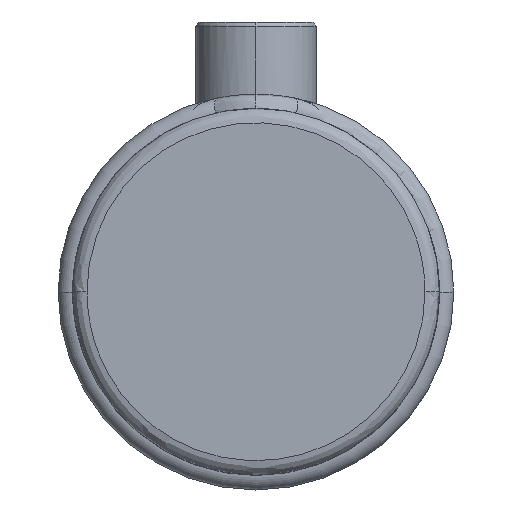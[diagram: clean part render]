
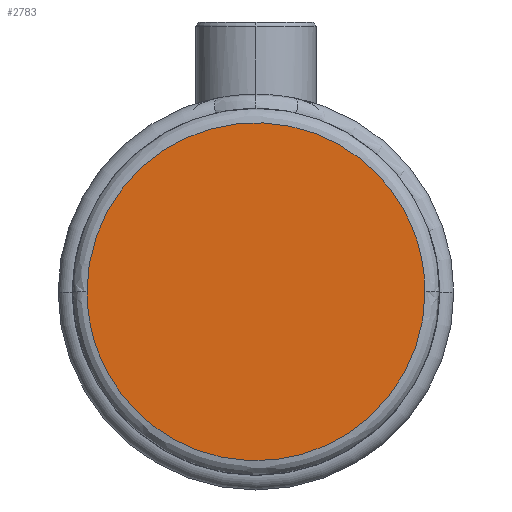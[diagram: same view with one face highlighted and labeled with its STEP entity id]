
A CAD part, top view. The second image highlights one B-rep face of the part: STEP entity #2783.
In plain terms, the highlighted planar face has unit normal (0, 0, 1).
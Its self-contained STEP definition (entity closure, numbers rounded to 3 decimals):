
#232 = FACE_OUTER_BOUND ( 'NONE', #10256, .T. ) ;
#452 = CARTESIAN_POINT ( 'NONE',  ( 35.1, 0., 50. ) ) ;
#556 = EDGE_CURVE ( 'NONE', #3232, #1459, #812, .T. ) ;
#573 = ORIENTED_EDGE ( 'NONE', *, *, #556, .F. ) ;
#812 =( BOUNDED_CURVE ( )  B_SPLINE_CURVE ( 3, ( #9519, #9681, #9468, #9459 ),
 .UNSPECIFIED., .F., .F. ) 
 B_SPLINE_CURVE_WITH_KNOTS ( ( 4, 4 ),
 ( 0.25, 0.75 ),
 .UNSPECIFIED. ) 
 CURVE ( )  GEOMETRIC_REPRESENTATION_ITEM ( )  RATIONAL_B_SPLINE_CURVE ( ( 1., 0.333, 0.333, 1. ) ) 
 REPRESENTATION_ITEM ( '' )  );
#855 = ORIENTED_EDGE ( 'NONE', *, *, #9495, .F. ) ;
#1230 = AXIS2_PLACEMENT_3D ( 'NONE', #4973, #7548, #2346 ) ;
#1459 = VERTEX_POINT ( 'NONE', #8800 ) ;
#1810 = CARTESIAN_POINT ( 'NONE',  ( -35.1, 0., 50. ) ) ;
#2288 =( BOUNDED_CURVE ( )  B_SPLINE_CURVE ( 3, ( #1810, #7042, #3595, #9401 ),
 .UNSPECIFIED., .F., .T. ) 
 B_SPLINE_CURVE_WITH_KNOTS ( ( 4, 4 ),
 ( 0.75, 1.25 ),
 .UNSPECIFIED. ) 
 CURVE ( )  GEOMETRIC_REPRESENTATION_ITEM ( )  RATIONAL_B_SPLINE_CURVE ( ( 1., 0.333, 0.333, 1. ) ) 
 REPRESENTATION_ITEM ( '' )  );
#2346 = DIRECTION ( 'NONE',  ( 1., 0., 0. ) ) ;
#2783 = ADVANCED_FACE ( 'NONE', ( #232 ), #8291, .T. ) ;
#3232 = VERTEX_POINT ( 'NONE', #452 ) ;
#3595 = CARTESIAN_POINT ( 'NONE',  ( 35.1, 70.2, 50. ) ) ;
#4973 = CARTESIAN_POINT ( 'NONE',  ( 0., 19.05, 50. ) ) ;
#7042 = CARTESIAN_POINT ( 'NONE',  ( -35.1, 70.2, 50. ) ) ;
#7548 = DIRECTION ( 'NONE',  ( 0., 0., 1. ) ) ;
#8291 = PLANE ( 'NONE',  #1230 ) ;
#8800 = CARTESIAN_POINT ( 'NONE',  ( -35.1, 0., 50. ) ) ;
#9401 = CARTESIAN_POINT ( 'NONE',  ( 35.1, 0., 50. ) ) ;
#9459 = CARTESIAN_POINT ( 'NONE',  ( -35.1, 0., 50. ) ) ;
#9468 = CARTESIAN_POINT ( 'NONE',  ( -35.1, -70.2, 50. ) ) ;
#9495 = EDGE_CURVE ( 'NONE', #1459, #3232, #2288, .T. ) ;
#9519 = CARTESIAN_POINT ( 'NONE',  ( 35.1, 0., 50. ) ) ;
#9681 = CARTESIAN_POINT ( 'NONE',  ( 35.1, -70.2, 50. ) ) ;
#10256 = EDGE_LOOP ( 'NONE', ( #573, #855 ) ) ;
